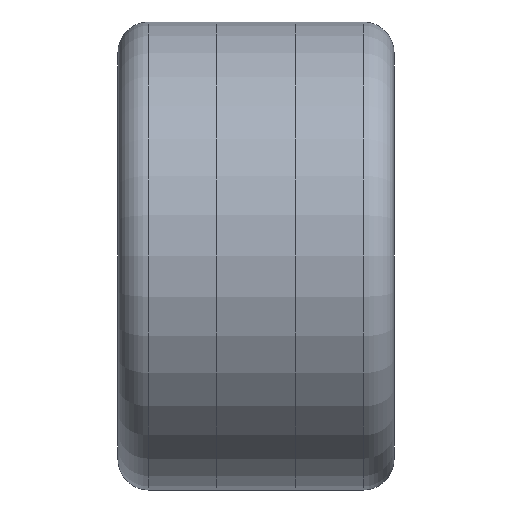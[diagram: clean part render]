
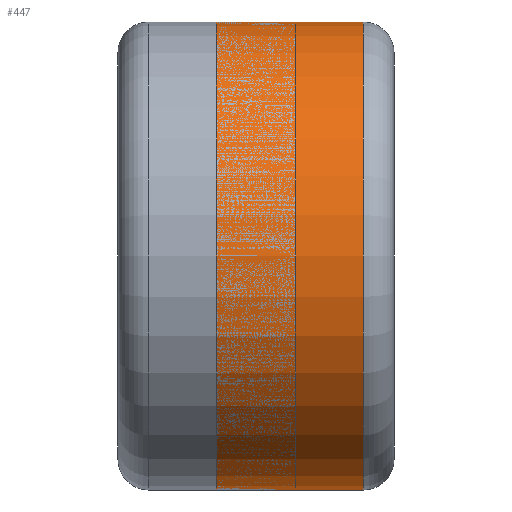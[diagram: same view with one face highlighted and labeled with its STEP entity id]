
A CAD part, left-side view. The second image highlights one B-rep face of the part: STEP entity #447.
In plain terms, the highlighted cylindrical face has radius 38.15 mm (diameter 76.3 mm), a full revolution.
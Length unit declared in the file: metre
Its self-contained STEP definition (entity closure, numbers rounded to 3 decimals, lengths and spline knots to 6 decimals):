
#447 = ADVANCED_FACE( '', ( #1048, #1049 ), #1050, .T. );
#1048 = FACE_OUTER_BOUND( '', #1838, .T. );
#1049 = FACE_OUTER_BOUND( '', #1839, .T. );
#1050 = CYLINDRICAL_SURFACE( '', #1840, 0.03815 );
#1838 = EDGE_LOOP( '', ( #2991 ) );
#1839 = EDGE_LOOP( '', ( #2992 ) );
#1840 = AXIS2_PLACEMENT_3D( '', #2993, #2994, #2995 );
#2991 = ORIENTED_EDGE( '', *, *, #4271, .F. );
#2992 = ORIENTED_EDGE( '', *, *, #4274, .F. );
#2993 = CARTESIAN_POINT( '', ( 0., -0.003081, 0. ) );
#2994 = DIRECTION( '', ( 0., 1., 0. ) );
#2995 = DIRECTION( '', ( 0., 0., 1. ) );
#4271 = EDGE_CURVE( '', #5082, #5082, #5083, .F. );
#4274 = EDGE_CURVE( '', #5087, #5087, #5088, .T. );
#5082 = VERTEX_POINT( '', #6278 );
#5083 = CIRCLE( '', #6279, 0.03815 );
#5087 = VERTEX_POINT( '', #6283 );
#5088 = CIRCLE( '', #6284, 0.03815 );
#6278 = CARTESIAN_POINT( '', ( 0., -0.0175, 0.03815 ) );
#6279 = AXIS2_PLACEMENT_3D( '', #7204, #7205, #7206 );
#6283 = CARTESIAN_POINT( '', ( 0., 0.0065, 0.03815 ) );
#6284 = AXIS2_PLACEMENT_3D( '', #7210, #7211, #7212 );
#7204 = CARTESIAN_POINT( '', ( 0., -0.0175, 0. ) );
#7205 = DIRECTION( '', ( 0., 1., 0. ) );
#7206 = DIRECTION( '', ( 0., 0., 1. ) );
#7210 = CARTESIAN_POINT( '', ( 0., 0.0065, 0. ) );
#7211 = DIRECTION( '', ( 0., 1., 0. ) );
#7212 = DIRECTION( '', ( 0., 0., 1. ) );
